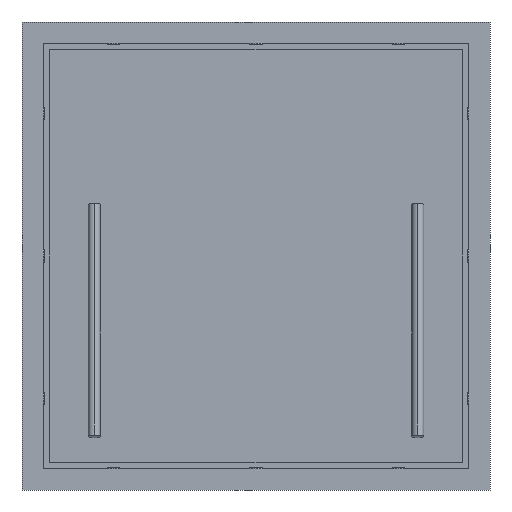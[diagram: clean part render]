
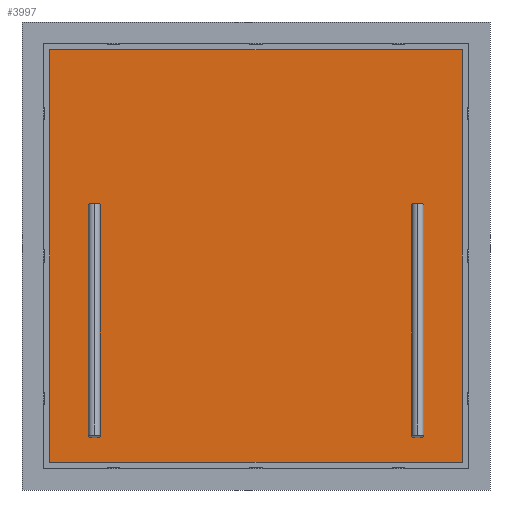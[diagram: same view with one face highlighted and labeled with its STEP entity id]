
A CAD part, front view. The second image highlights one B-rep face of the part: STEP entity #3997.
In plain terms, the highlighted planar face has unit normal (0, -1, 0).
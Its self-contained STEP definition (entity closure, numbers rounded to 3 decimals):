
#3755=DIRECTION('',(1.,0.,0.));
#3756=VECTOR('',#3755,1048.);
#3757=CARTESIAN_POINT('',(-524.,78.,515.));
#3758=LINE('',#3757,#3756);
#3763=DIRECTION('',(0.,0.,-1.));
#3764=VECTOR('',#3763,1048.);
#3765=CARTESIAN_POINT('',(524.,78.,515.));
#3766=LINE('',#3765,#3764);
#3901=DIRECTION('',(0.,0.,1.));
#3902=VECTOR('',#3901,1048.);
#3903=CARTESIAN_POINT('',(-524.,78.,-533.));
#3904=LINE('',#3903,#3902);
#3909=DIRECTION('',(-1.,0.,0.));
#3910=VECTOR('',#3909,1048.);
#3911=CARTESIAN_POINT('',(524.,78.,-533.));
#3912=LINE('',#3911,#3910);
#3959=CARTESIAN_POINT('',(524.,78.,515.));
#3960=CARTESIAN_POINT('',(524.,78.,-533.));
#3961=VERTEX_POINT('',#3959);
#3962=VERTEX_POINT('',#3960);
#3963=CARTESIAN_POINT('',(-524.,78.,-533.));
#3964=VERTEX_POINT('',#3963);
#3965=CARTESIAN_POINT('',(-524.,78.,515.));
#3966=VERTEX_POINT('',#3965);
#3983=CARTESIAN_POINT('',(0.,78.,0.));
#3984=DIRECTION('',(0.,1.,0.));
#3985=DIRECTION('',(1.,0.,0.));
#3986=AXIS2_PLACEMENT_3D('',#3983,#3984,#3985);
#3987=PLANE('',#3986);
#3989=ORIENTED_EDGE('',*,*,#3988,.T.);
#3991=ORIENTED_EDGE('',*,*,#3990,.T.);
#3993=ORIENTED_EDGE('',*,*,#3992,.T.);
#3994=ORIENTED_EDGE('',*,*,#3972,.T.);
#3995=EDGE_LOOP('',(#3989,#3991,#3993,#3994));
#3996=FACE_OUTER_BOUND('',#3995,.F.);
#3972=EDGE_CURVE('',#3966,#3961,#3758,.T.);
#3988=EDGE_CURVE('',#3961,#3962,#3766,.T.);
#3990=EDGE_CURVE('',#3962,#3964,#3912,.T.);
#3992=EDGE_CURVE('',#3964,#3966,#3904,.T.);
#3997=ADVANCED_FACE('',(#3996),#3987,.F.);
